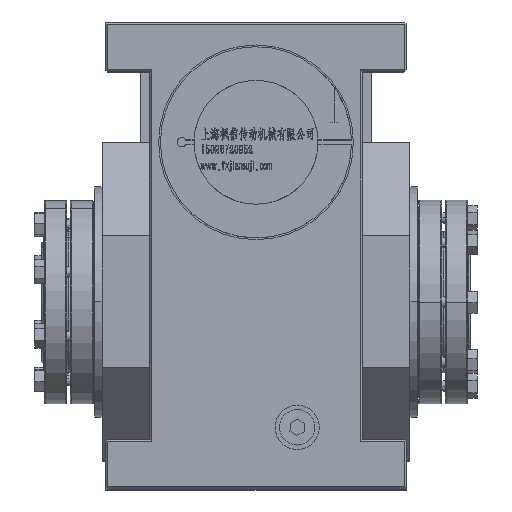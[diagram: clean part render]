
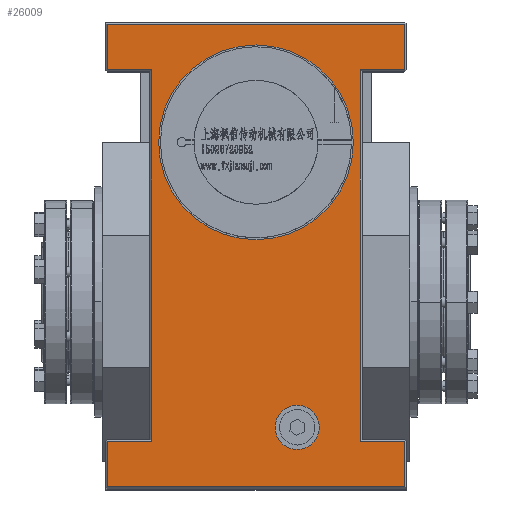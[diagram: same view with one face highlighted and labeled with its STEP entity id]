
A CAD part, top view. The second image highlights one B-rep face of the part: STEP entity #26009.
In plain terms, the highlighted planar face has unit normal (0, 0, 1).
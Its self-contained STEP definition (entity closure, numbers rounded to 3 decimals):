
#640 = AXIS2_PLACEMENT_3D ( 'NONE', #14010, #82185, #5629 ) ;
#992 = VERTEX_POINT ( 'NONE', #54421 ) ;
#2941 = EDGE_CURVE ( 'NONE', #92169, #69260, #81263, .T. ) ;
#3345 = CARTESIAN_POINT ( 'NONE',  ( -59., -79., 114. ) ) ;
#3493 = VECTOR ( 'NONE', #22336, 1000. ) ;
#3565 = DIRECTION ( 'NONE',  ( 0., 1., 0. ) ) ;
#3677 = AXIS2_PLACEMENT_3D ( 'NONE', #22762, #14367, #72508 ) ;
#3910 = LINE ( 'NONE', #63159, #15956 ) ;
#4112 = CARTESIAN_POINT ( 'NONE',  ( 84., -78., 114. ) ) ;
#5506 = VERTEX_POINT ( 'NONE', #103443 ) ;
#5629 = DIRECTION ( 'NONE',  ( 1., 0., 0. ) ) ;
#6120 = CARTESIAN_POINT ( 'NONE',  ( 84., -104.5, 114. ) ) ;
#6252 = CARTESIAN_POINT ( 'NONE',  ( -84., 131., 114. ) ) ;
#8890 = LINE ( 'NONE', #16191, #92065 ) ;
#10314 = DIRECTION ( 'NONE',  ( 0., 1., 0. ) ) ;
#11366 = VERTEX_POINT ( 'NONE', #100130 ) ;
#11528 = VERTEX_POINT ( 'NONE', #6252 ) ;
#11657 = DIRECTION ( 'NONE',  ( -1., 0., 0. ) ) ;
#11869 = VERTEX_POINT ( 'NONE', #6120 ) ;
#13302 = LINE ( 'NONE', #28999, #36969 ) ;
#13658 = CARTESIAN_POINT ( 'NONE',  ( -85., -79., 114. ) ) ;
#14010 = CARTESIAN_POINT ( 'NONE',  ( 23.262, -71., 114. ) ) ;
#14367 = DIRECTION ( 'NONE',  ( 0., 0., 1. ) ) ;
#15020 = ORIENTED_EDGE ( 'NONE', *, *, #75487, .T. ) ;
#15278 = EDGE_CURVE ( 'NONE', #11869, #91652, #19790, .T. ) ;
#15956 = VECTOR ( 'NONE', #70442, 1000. ) ;
#16191 = CARTESIAN_POINT ( 'NONE',  ( 85., -79., 114. ) ) ;
#18342 = VECTOR ( 'NONE', #38241, 1000. ) ;
#18695 = CARTESIAN_POINT ( 'NONE',  ( 0., 90., 114. ) ) ;
#18721 = CARTESIAN_POINT ( 'NONE',  ( -84., -104.5, 114. ) ) ;
#19790 = LINE ( 'NONE', #4112, #38253 ) ;
#20254 = CARTESIAN_POINT ( 'NONE',  ( -59., 131., 114. ) ) ;
#20383 = ORIENTED_EDGE ( 'NONE', *, *, #71888, .F. ) ;
#21291 = DIRECTION ( 'NONE',  ( 0., -1., 0. ) ) ;
#21465 = CARTESIAN_POINT ( 'NONE',  ( 84., 156.5, 114. ) ) ;
#21782 = LINE ( 'NONE', #106726, #3493 ) ;
#22336 = DIRECTION ( 'NONE',  ( 1., 0., 0. ) ) ;
#22762 = CARTESIAN_POINT ( 'NONE',  ( 0., 90., 114. ) ) ;
#23430 = DIRECTION ( 'NONE',  ( 1., 0., 0. ) ) ;
#23694 = FACE_OUTER_BOUND ( 'NONE', #104665, .T. ) ;
#24764 = EDGE_CURVE ( 'NONE', #11528, #45255, #90870, .T. ) ;
#25532 = VERTEX_POINT ( 'NONE', #88672 ) ;
#25658 = VERTEX_POINT ( 'NONE', #18721 ) ;
#25683 = ORIENTED_EDGE ( 'NONE', *, *, #24764, .T. ) ;
#26009 = ADVANCED_FACE ( 'NONE', ( #108647, #100256, #23694 ), #91864, .F. ) ;
#26550 = DIRECTION ( 'NONE',  ( 0., 0., 1. ) ) ;
#28999 = CARTESIAN_POINT ( 'NONE',  ( 85., 156.5, 114. ) ) ;
#29314 = LINE ( 'NONE', #21465, #18342 ) ;
#32968 = EDGE_CURVE ( 'NONE', #25532, #11528, #53382, .T. ) ;
#36700 = ORIENTED_EDGE ( 'NONE', *, *, #42296, .T. ) ;
#36891 = EDGE_CURVE ( 'NONE', #61624, #25532, #13302, .T. ) ;
#36969 = VECTOR ( 'NONE', #11657, 1000. ) ;
#36984 = CARTESIAN_POINT ( 'NONE',  ( -59., -78., 114. ) ) ;
#37521 = LINE ( 'NONE', #38616, #95264 ) ;
#38241 = DIRECTION ( 'NONE',  ( 0., 1., 0. ) ) ;
#38253 = VECTOR ( 'NONE', #3565, 1000. ) ;
#38616 = CARTESIAN_POINT ( 'NONE',  ( -84., 158., 114. ) ) ;
#40696 = ORIENTED_EDGE ( 'NONE', *, *, #108670, .F. ) ;
#41202 = CIRCLE ( 'NONE', #3677, 55. ) ;
#42296 = EDGE_CURVE ( 'NONE', #97175, #992, #63979, .T. ) ;
#42803 = EDGE_CURVE ( 'NONE', #69260, #92169, #41202, .T. ) ;
#42808 = EDGE_LOOP ( 'NONE', ( #109927, #45848 ) ) ;
#43976 = AXIS2_PLACEMENT_3D ( 'NONE', #49404, #75108, #109194 ) ;
#44387 = ORIENTED_EDGE ( 'NONE', *, *, #78097, .T. ) ;
#45255 = VERTEX_POINT ( 'NONE', #20254 ) ;
#45848 = ORIENTED_EDGE ( 'NONE', *, *, #2941, .F. ) ;
#45978 = ORIENTED_EDGE ( 'NONE', *, *, #66622, .T. ) ;
#46218 = DIRECTION ( 'NONE',  ( 1., 0., 0. ) ) ;
#47400 = CIRCLE ( 'NONE', #56318, 12.5 ) ;
#47666 = VERTEX_POINT ( 'NONE', #80443 ) ;
#47770 = VECTOR ( 'NONE', #64340, 1000. ) ;
#48596 = LINE ( 'NONE', #82656, #56715 ) ;
#49404 = CARTESIAN_POINT ( 'NONE',  ( 85., 158., 114. ) ) ;
#49406 = VECTOR ( 'NONE', #46218, 1000. ) ;
#51151 = EDGE_LOOP ( 'NONE', ( #20383, #40696 ) ) ;
#53382 = LINE ( 'NONE', #105343, #78641 ) ;
#54421 = CARTESIAN_POINT ( 'NONE',  ( -84., -79., 114. ) ) ;
#55365 = EDGE_CURVE ( 'NONE', #45255, #97175, #88915, .T. ) ;
#55714 = VERTEX_POINT ( 'NONE', #64616 ) ;
#56318 = AXIS2_PLACEMENT_3D ( 'NONE', #85763, #26550, #69019 ) ;
#56715 = VECTOR ( 'NONE', #23430, 1000. ) ;
#58974 = VECTOR ( 'NONE', #105336, 1000. ) ;
#59651 = CARTESIAN_POINT ( 'NONE',  ( 84., 156.5, 114. ) ) ;
#60709 = ORIENTED_EDGE ( 'NONE', *, *, #55365, .T. ) ;
#61273 = CARTESIAN_POINT ( 'NONE',  ( 84., 131., 114. ) ) ;
#61624 = VERTEX_POINT ( 'NONE', #59651 ) ;
#63159 = CARTESIAN_POINT ( 'NONE',  ( 59., 130., 114. ) ) ;
#63979 = LINE ( 'NONE', #13658, #58974 ) ;
#64340 = DIRECTION ( 'NONE',  ( 0., -1., 0. ) ) ;
#64616 = CARTESIAN_POINT ( 'NONE',  ( 59., 131., 114. ) ) ;
#65115 = ORIENTED_EDGE ( 'NONE', *, *, #77985, .T. ) ;
#65247 = AXIS2_PLACEMENT_3D ( 'NONE', #18695, #86863, #10314 ) ;
#66622 = EDGE_CURVE ( 'NONE', #992, #25658, #37521, .T. ) ;
#69019 = DIRECTION ( 'NONE',  ( 1., 0., 0. ) ) ;
#69260 = VERTEX_POINT ( 'NONE', #77547 ) ;
#69641 = EDGE_CURVE ( 'NONE', #91652, #5506, #8890, .T. ) ;
#70442 = DIRECTION ( 'NONE',  ( 0., 1., 0. ) ) ;
#71359 = CARTESIAN_POINT ( 'NONE',  ( -60., 131., 114. ) ) ;
#71888 = EDGE_CURVE ( 'NONE', #47666, #11366, #47400, .T. ) ;
#72508 = DIRECTION ( 'NONE',  ( 0., 1., 0. ) ) ;
#73248 = ORIENTED_EDGE ( 'NONE', *, *, #36891, .T. ) ;
#75108 = DIRECTION ( 'NONE',  ( 0., 0., -1. ) ) ;
#75487 = EDGE_CURVE ( 'NONE', #55714, #88371, #48596, .T. ) ;
#76557 = CARTESIAN_POINT ( 'NONE',  ( 84., -79., 114. ) ) ;
#77547 = CARTESIAN_POINT ( 'NONE',  ( -55., 90., 114. ) ) ;
#77985 = EDGE_CURVE ( 'NONE', #5506, #55714, #3910, .T. ) ;
#78097 = EDGE_CURVE ( 'NONE', #25658, #11869, #21782, .T. ) ;
#78641 = VECTOR ( 'NONE', #80730, 1000. ) ;
#80443 = CARTESIAN_POINT ( 'NONE',  ( 35.762, -71., 114. ) ) ;
#80730 = DIRECTION ( 'NONE',  ( 0., -1., 0. ) ) ;
#81263 = CIRCLE ( 'NONE', #65247, 55. ) ;
#82185 = DIRECTION ( 'NONE',  ( 0., 0., 1. ) ) ;
#82656 = CARTESIAN_POINT ( 'NONE',  ( 85., 131., 114. ) ) ;
#84320 = EDGE_CURVE ( 'NONE', #88371, #61624, #29314, .T. ) ;
#85704 = ORIENTED_EDGE ( 'NONE', *, *, #32968, .T. ) ;
#85763 = CARTESIAN_POINT ( 'NONE',  ( 23.262, -71., 114. ) ) ;
#86863 = DIRECTION ( 'NONE',  ( 0., 0., 1. ) ) ;
#88371 = VERTEX_POINT ( 'NONE', #61273 ) ;
#88672 = CARTESIAN_POINT ( 'NONE',  ( -84., 156.5, 114. ) ) ;
#88915 = LINE ( 'NONE', #36984, #47770 ) ;
#90870 = LINE ( 'NONE', #71359, #49406 ) ;
#91652 = VERTEX_POINT ( 'NONE', #76557 ) ;
#91864 = PLANE ( 'NONE',  #43976 ) ;
#92065 = VECTOR ( 'NONE', #94382, 1000. ) ;
#92169 = VERTEX_POINT ( 'NONE', #96507 ) ;
#94382 = DIRECTION ( 'NONE',  ( -1., 0., 0. ) ) ;
#95264 = VECTOR ( 'NONE', #21291, 1000. ) ;
#96507 = CARTESIAN_POINT ( 'NONE',  ( 55., 90., 114. ) ) ;
#97080 = ORIENTED_EDGE ( 'NONE', *, *, #84320, .T. ) ;
#97175 = VERTEX_POINT ( 'NONE', #3345 ) ;
#100130 = CARTESIAN_POINT ( 'NONE',  ( 10.762, -71., 114. ) ) ;
#100256 = FACE_BOUND ( 'NONE', #42808, .T. ) ;
#100611 = CIRCLE ( 'NONE', #640, 12.5 ) ;
#103443 = CARTESIAN_POINT ( 'NONE',  ( 59., -79., 114. ) ) ;
#104665 = EDGE_LOOP ( 'NONE', ( #15020, #97080, #73248, #85704, #25683, #60709, #36700, #45978, #44387, #108020, #109412, #65115 ) ) ;
#105336 = DIRECTION ( 'NONE',  ( -1., 0., 0. ) ) ;
#105343 = CARTESIAN_POINT ( 'NONE',  ( -84., 158., 114. ) ) ;
#106726 = CARTESIAN_POINT ( 'NONE',  ( 85., -104.5, 114. ) ) ;
#108020 = ORIENTED_EDGE ( 'NONE', *, *, #15278, .T. ) ;
#108647 = FACE_BOUND ( 'NONE', #51151, .T. ) ;
#108670 = EDGE_CURVE ( 'NONE', #11366, #47666, #100611, .T. ) ;
#109194 = DIRECTION ( 'NONE',  ( -1., 0., 0. ) ) ;
#109412 = ORIENTED_EDGE ( 'NONE', *, *, #69641, .T. ) ;
#109927 = ORIENTED_EDGE ( 'NONE', *, *, #42803, .F. ) ;
